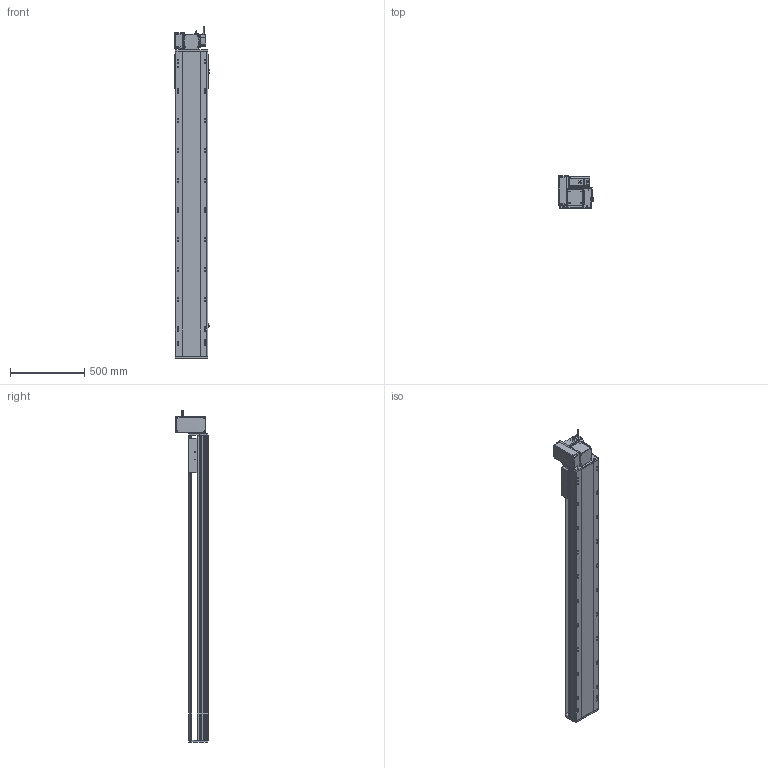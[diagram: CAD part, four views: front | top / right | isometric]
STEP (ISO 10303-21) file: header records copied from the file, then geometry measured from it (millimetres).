
FILE_DESCRIPTION (( 'STEP AP214' ), '1' );
FILE_NAME ('RTB22S-XX-1700-LW-M75-C4.STEP', '2025-12-12T05:59:01', ( '' ), ( '' ), 'SwSTEP 2.0', 'SolidWorks 2018', '' );
FILE_SCHEMA (( 'AUTOMOTIVE_DESIGN' ));
Length unit declared in the file: millimetre
Products named in the file (14): RTB22S-GY-005P^RTB22S-LW-々湍釱蚾饜_RTB22S-XX-XX-LW-M75-C4; RTB22S-GY-014--々湍釱^RTB22S-LW-々湍釱蚾饜_RTB22S-XX-XX-LW-M75-C4; RTB22S-L-011菁釱^RTB22S-XX-XX-LW-M75-C4; 750W萇儂^RTB22S-XX-XX-LW-M75-C4; RTB22S-GY-017P^RTB22S-LW-々湍釱蚾饜_RTB22S-XX-XX-LW-M75-C4; RTB22S-GY-008-M75--萇儂啣^RTB22S-LW-々湍釱蚾饜_RTB22S-XX-XX-LW-M75-C4; RTH22-GY-013外置感应片^RTB22S-XX-XX-LW-M75-C4; RTB22S-GY-007奻裔^RTB22S-XX-XX-LW-M75-C4; RTB22S-GY-001耜裔^RTB22S-XX-XX-LW-M75-C4; RTB22S-LW-々湍釱蚾饜^RTB22S-XX-XX-LW-M75-C4; OMRON EE-SX672 传感器^RTB22S-XX-XX-LW-M75-C4; RTB22S-GY-018P^RTB22S-LW-々湍釱蚾饜_RTB22S-XX-XX-LW-M75-C4; RTB22S-XX-1700-LW-M75-C4; RTB22S-L-004賑釱^RTB22S-XX-XX-LW-M75-C4
Assembly tree (16 placements, depth 3):
  RTB22S-XX-1700-LW-M75-C4
    RTB22S-L-011菁釱^RTB22S-XX-XX-LW-M75-C4
    RTB22S-GY-001耜裔^RTB22S-XX-XX-LW-M75-C4
    750W萇儂^RTB22S-XX-XX-LW-M75-C4
    RTB22S-GY-007奻裔^RTB22S-XX-XX-LW-M75-C4
    RTB22S-L-004賑釱^RTB22S-XX-XX-LW-M75-C4
    RTH22-GY-013外置感应片^RTB22S-XX-XX-LW-M75-C4
    OMRON EE-SX672 传感器^RTB22S-XX-XX-LW-M75-C4  x3
    RTB22S-LW-々湍釱蚾饜^RTB22S-XX-XX-LW-M75-C4
      RTB22S-GY-014--々湍釱^RTB22S-LW-々湍釱蚾饜_RTB22S-XX-XX-LW-M75-C4
      RTB22S-GY-017P^RTB22S-LW-々湍釱蚾饜_RTB22S-XX-XX-LW-M75-C4  x2
      RTB22S-GY-005P^RTB22S-LW-々湍釱蚾饜_RTB22S-XX-XX-LW-M75-C4
      RTB22S-GY-008-M75--萇儂啣^RTB22S-LW-々湍釱蚾饜_RTB22S-XX-XX-LW-M75-C4
      RTB22S-GY-018P^RTB22S-LW-々湍釱蚾饜_RTB22S-XX-XX-LW-M75-C4
Bounding box: 238.5 x 215.5 x 2232.2 mm (x, y, z)
Volume: 29442810.7 mm3; surface area: 3032242.7 mm2
Topology: 15 solids, 15 shells, 2037 faces, 5536 edges, 3542 vertices
Faces by surface type: plane 921, cylinder 658, bspline 296, cone 150, sphere 8, torus 4
Entity records: 54742 total; most frequent: CARTESIAN_POINT 15616, ORIENTED_EDGE 7836, DIRECTION 7592, EDGE_CURVE 3918, AXIS2_PLACEMENT_3D 2698, VERTEX_POINT 2546, VECTOR 2196, LINE 2196
